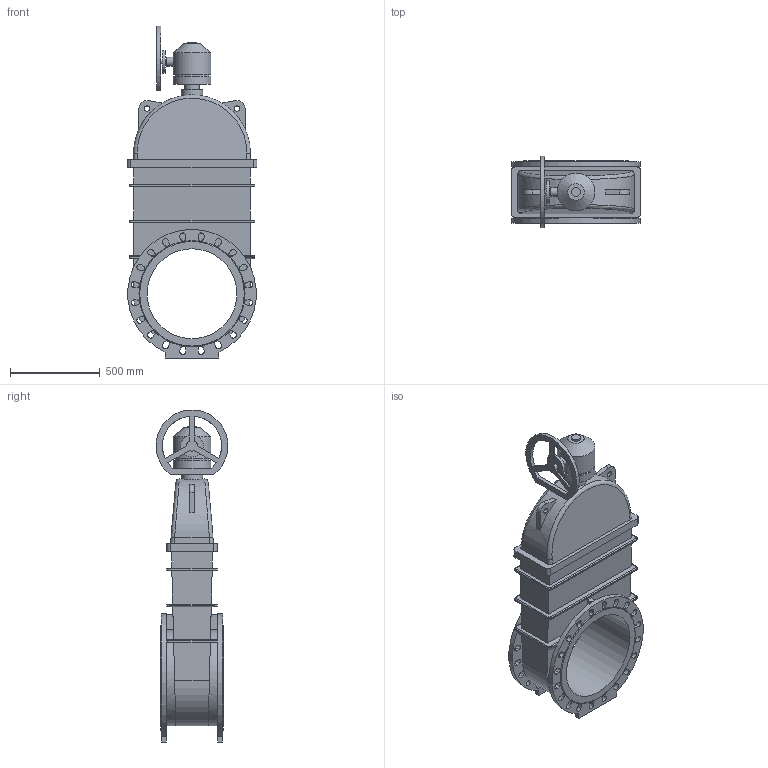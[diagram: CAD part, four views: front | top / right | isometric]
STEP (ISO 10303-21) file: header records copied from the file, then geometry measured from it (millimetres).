
FILE_DESCRIPTION(('STEP AP203'), '1');
FILE_NAME('Çàäâèæêà 47GV.Z DN500 PN10_PN16 + ðåäóêòîð ñ ìàõîâèêîì', '', ('UNSPECIFIED'), ('UNSPECIFIED'), 'ASCON STEP Converter 1.6', 'ASCON Math Kernel', '');
FILE_SCHEMA(('CONFIG_CONTROL_DESIGN'));
Length unit declared in the file: millimetre
Bounding box: 720 x 399.13 x 1846.76 mm (x, y, z)
Volume: 159722752.9 mm3; surface area: 4405236.9 mm2
Topology: 1 solids, 1 shells, 373 faces, 975 edges, 633 vertices
Faces by surface type: plane 188, cylinder 158, bspline 24, cone 3
Full cylindrical faces by diameter (mm): 17.5 x4, 20 x1, 22 x4, 30 x3, 50 x2, 60 x1, 80 x1, 120 x1, 125 x1, 190 x1, 210 x2, 500 x1
Entity records: 17109 total; most frequent: CARTESIAN_POINT 4852, ORIENTED_EDGE 1900, DIRECTION 1865, EDGE_CURVE 950, AXIS2_PLACEMENT_3D 643, VERTEX_POINT 633, LINE 579, VECTOR 579
